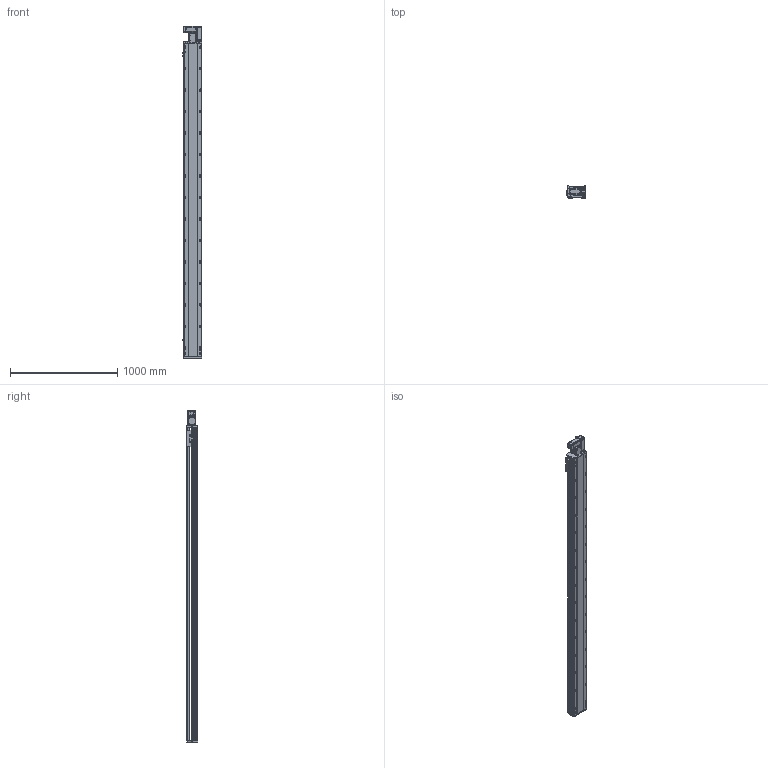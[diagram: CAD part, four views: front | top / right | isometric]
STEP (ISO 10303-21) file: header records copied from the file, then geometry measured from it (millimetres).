
FILE_DESCRIPTION (( 'STEP AP214' ), '1' );
FILE_NAME ('RTB17S-XX-2650-R-M40-C4.STEP', '2025-12-11T07:52:26', ( '' ), ( '' ), 'SwSTEP 2.0', 'SolidWorks 2018', '' );
FILE_SCHEMA (( 'AUTOMOTIVE_DESIGN' ));
Length unit declared in the file: millimetre
Products named in the file (14): RTB17S-XX-2650-R-M40-C4; 400W侜督萇儂^RTB17S-XX-XX-R-M40-C4; RTB17S-R-々湍釱蚾饜-400W^RTB17S-XX-XX-R-M40-C4; RTB17S-L-007奻裔^RTB17S-XX-XX-R-M40-C4; RTH13-BL-012覜茼え俋离^RTB17S-XX-XX-R-M40-C4; RTB14-L-008-M20--萇儂啣^RTB17S-R-々湍釱蚾饜-400W_RTB17S-XX-XX-R-M40-C4; RTB17S-L-001耜醱啣^RTB17S-XX-XX-R-M40-C4; OMRON EE-SX672 传感器^RTB17S-XX-XX-R-M40-C4; RTB14-L-005P--轴承塑胶压盖^RTB17S-R-皮带座装配-400W_RTB17S-XX-XX-R-M40-C4; RTB17S-L-004佪裝蹟譫蟀諉釱^RTB17S-XX-XX-R-M40-C4; RTB17-R-011菁釱^RTB17S-XX-XX-R-M40-C4; RTB14-L-018P^RTB17S-R-々湍釱蚾饜-400W_RTB17S-XX-XX-R-M40-C4; RTB17S-L-014-T20--々湍釱^RTB17S-R-々湍釱蚾饜-400W_RTB17S-XX-XX-R-M40-C4; RTB14-L-017P^RTB17S-R-々湍釱蚾饜-400W_RTB17S-XX-XX-R-M40-C4
Assembly tree (16 placements, depth 3):
  RTB17S-XX-2650-R-M40-C4
    RTB17-R-011菁釱^RTB17S-XX-XX-R-M40-C4
    RTB17S-L-007奻裔^RTB17S-XX-XX-R-M40-C4
    OMRON EE-SX672 传感器^RTB17S-XX-XX-R-M40-C4  x3
    RTB17S-L-001耜醱啣^RTB17S-XX-XX-R-M40-C4
    400W侜督萇儂^RTB17S-XX-XX-R-M40-C4
    RTB17S-L-004佪裝蹟譫蟀諉釱^RTB17S-XX-XX-R-M40-C4
    RTH13-BL-012覜茼え俋离^RTB17S-XX-XX-R-M40-C4
    RTB17S-R-々湍釱蚾饜-400W^RTB17S-XX-XX-R-M40-C4
      RTB17S-L-014-T20--々湍釱^RTB17S-R-々湍釱蚾饜-400W_RTB17S-XX-XX-R-M40-C4
      RTB14-L-005P--轴承塑胶压盖^RTB17S-R-皮带座装配-400W_RTB17S-XX-XX-R-M40-C4
      RTB14-L-008-M20--萇儂啣^RTB17S-R-々湍釱蚾饜-400W_RTB17S-XX-XX-R-M40-C4
      RTB14-L-017P^RTB17S-R-々湍釱蚾饜-400W_RTB17S-XX-XX-R-M40-C4  x2
      RTB14-L-018P^RTB17S-R-々湍釱蚾饜-400W_RTB17S-XX-XX-R-M40-C4
Bounding box: 183.5 x 108 x 3091 mm (x, y, z)
Volume: 25824716.2 mm3; surface area: 2967194.2 mm2
Topology: 15 solids, 15 shells, 2349 faces, 6573 edges, 4293 vertices
Faces by surface type: plane 1086, cylinder 815, bspline 301, cone 139, torus 8
Entity records: 69545 total; most frequent: CARTESIAN_POINT 19778, ORIENTED_EDGE 9990, DIRECTION 9206, EDGE_CURVE 4995, VERTEX_POINT 3281, AXIS2_PLACEMENT_3D 3211, VECTOR 2784, LINE 2784
